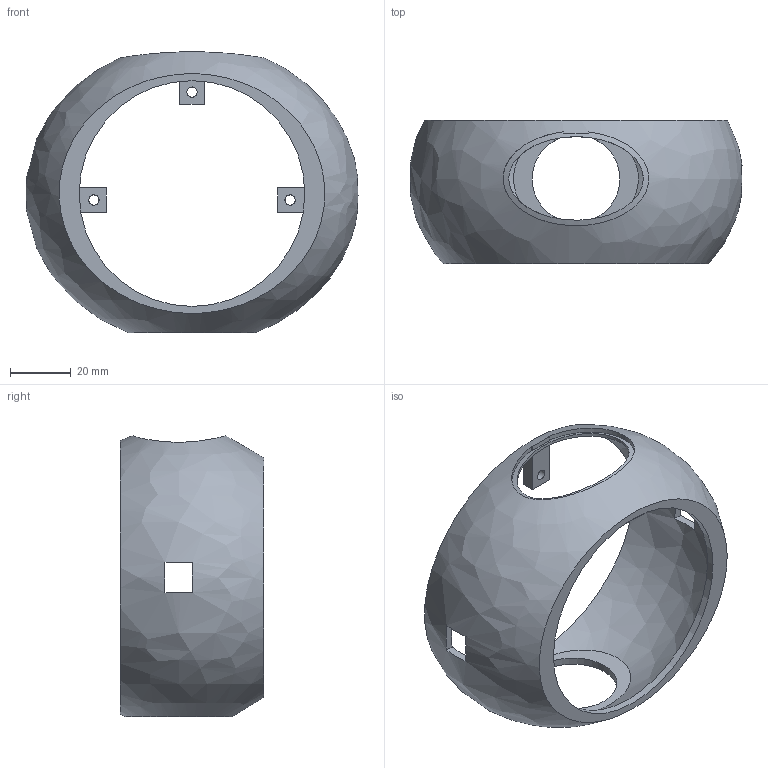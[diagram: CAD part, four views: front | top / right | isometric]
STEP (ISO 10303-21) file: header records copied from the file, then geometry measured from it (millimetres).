
FILE_DESCRIPTION(('FreeCAD Model'),'2;1');
FILE_NAME('Open CASCADE Shape Model','2026-11-20T08:25:32',('FreeCAD'),( 'FreeCAD'),'Open CASCADE STEP processor 7.8','FreeCAD','Unknown');
FILE_SCHEMA(('AUTOMOTIVE_DESIGN { 1 0 10303 214 1 1 1 1 }'));
Length unit declared in the file: millimetre
Products named in the file (1): Open CASCADE STEP translator 7.8 3
Bounding box: 109.12 x 47.15 x 92.38 mm (x, y, z)
Volume: 35802.7 mm3; surface area: 31663.7 mm2
Topology: 1 solids, 1 shells, 60 faces, 168 edges, 114 vertices
Faces by surface type: plane 49, cylinder 5, bspline 3, extrusion 3
Full cylindrical faces by diameter (mm): 3.4 x3, 28.8 x1, 74.175 x1
Entity records: 5472 total; most frequent: CARTESIAN_POINT 3991, ORIENTED_EDGE 336, DIRECTION 240, EDGE_CURVE 168, VERTEX_POINT 114, VECTOR 98, LINE 95, FACE_BOUND 80
